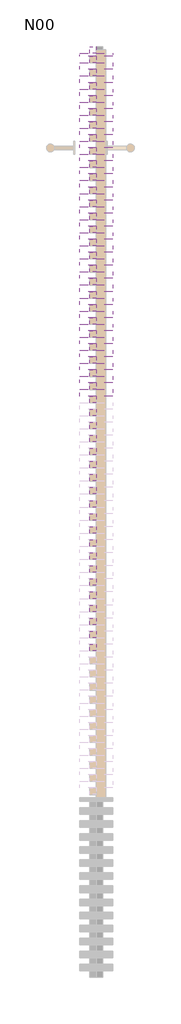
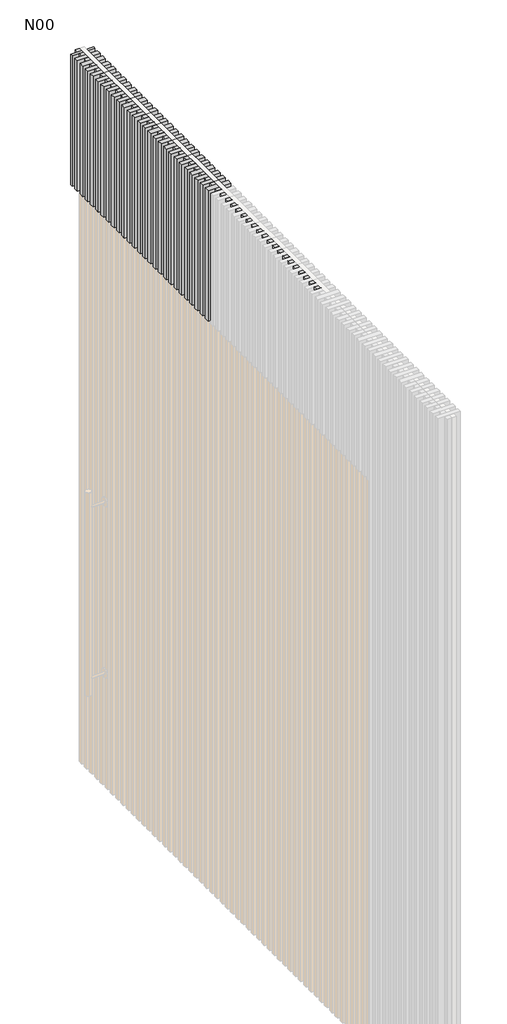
# One storey, part 2 of 2: 47 members, 27 plates.
"""IFC4 building model written with IfcOpenShell, lengths in millimetres."""

from ifc_helpers import new_model, si_unit, origin, place, context, project, spatial, transform, mapped, element, save
from components import montante_retangular_da59f7c3, montante_retangular_5394629c, painel_do_sistema_vazio_vazio_6ddfdf0a, painel_do_sistema_vazio_vazio_ee066a7c

model = new_model("IFC4")

# Units and contexts
model_context = context("Model", 3, world=origin())
ifc_project = project(units=[si_unit("LENGTHUNIT", "METRE", prefix="MILLI")], contexts=[model_context])

# Site, building, storey
site = spatial("IfcSite", under=ifc_project)
building = spatial("IfcBuilding", under=site)
storey = spatial("IfcBuildingStorey", under=building, Name="N00", Elevation=0.0)

# Members
placement = place(None, origin())
montante_retangular_shape = montante_retangular_da59f7c3(model_context)
element("IfcMember", 1, ObjectType="Montante retangular : ARQ_RIPAS", at=placement, inside=storey, context=model_context, shape_type="MappedRepresentation", body=[
    mapped(montante_retangular_shape, transform((11828.4106986, 1030.8169007, 2700.0), x_axis=(0.0, 1.0, 0.0), y_axis=(1.0, 0.0, 0.0), z_axis=(0.0, 0.0, -1.0))),
])
element("IfcMember", 2, ObjectType="Montante retangular : ARQ_RIPAS", at=placement, inside=storey, context=model_context, shape_type="MappedRepresentation", body=[
    mapped(montante_retangular_shape, transform((11828.4106986, 1070.8169007, 2700.0), x_axis=(0.0, 1.0, 0.0), y_axis=(1.0, 0.0, 0.0), z_axis=(0.0, 0.0, -1.0))),
])
element("IfcMember", 3, ObjectType="Montante retangular : ARQ_RIPAS", at=placement, inside=storey, context=model_context, shape_type="MappedRepresentation", body=[
    mapped(montante_retangular_shape, transform((11828.4106986, 1110.8169007, 2700.0), x_axis=(0.0, 1.0, 0.0), y_axis=(1.0, 0.0, 0.0), z_axis=(0.0, 0.0, -1.0))),
])
element("IfcMember", 4, ObjectType="Montante retangular : ARQ_RIPAS", at=placement, inside=storey, context=model_context, shape_type="MappedRepresentation", body=[
    mapped(montante_retangular_shape, transform((11828.4106986, 1150.8169007, 2700.0), x_axis=(0.0, 1.0, 0.0), y_axis=(1.0, 0.0, 0.0), z_axis=(0.0, 0.0, -1.0))),
])
element("IfcMember", 5, ObjectType="Montante retangular : ARQ_RIPAS", at=placement, inside=storey, context=model_context, shape_type="MappedRepresentation", body=[
    mapped(montante_retangular_shape, transform((11828.4106986, 1190.8169007, 2700.0), x_axis=(0.0, 1.0, 0.0), y_axis=(1.0, 0.0, 0.0), z_axis=(0.0, 0.0, -1.0))),
])
element("IfcMember", 6, ObjectType="Montante retangular : ARQ_RIPAS", at=placement, inside=storey, context=model_context, shape_type="MappedRepresentation", body=[
    mapped(montante_retangular_shape, transform((11828.4106986, 1230.8169007, 2700.0), x_axis=(0.0, 1.0, 0.0), y_axis=(1.0, 0.0, 0.0), z_axis=(0.0, 0.0, -1.0))),
])
element("IfcMember", 7, ObjectType="Montante retangular : ARQ_RIPAS", at=placement, inside=storey, context=model_context, shape_type="MappedRepresentation", body=[
    mapped(montante_retangular_shape, transform((11828.4106986, 1270.8169007, 2700.0), x_axis=(0.0, 1.0, 0.0), y_axis=(1.0, 0.0, 0.0), z_axis=(0.0, 0.0, -1.0))),
])
element("IfcMember", 8, ObjectType="Montante retangular : ARQ_RIPAS", at=placement, inside=storey, context=model_context, shape_type="MappedRepresentation", body=[
    mapped(montante_retangular_shape, transform((11828.4106986, 1310.8169007, 2700.0), x_axis=(0.0, 1.0, 0.0), y_axis=(1.0, 0.0, 0.0), z_axis=(0.0, 0.0, -1.0))),
])
element("IfcMember", 9, ObjectType="Montante retangular : ARQ_RIPAS", at=placement, inside=storey, context=model_context, shape_type="MappedRepresentation", body=[
    mapped(montante_retangular_shape, transform((11828.4106986, 1350.8169007, 2700.0), x_axis=(0.0, 1.0, 0.0), y_axis=(1.0, 0.0, 0.0), z_axis=(0.0, 0.0, -1.0))),
])
element("IfcMember", 10, ObjectType="Montante retangular : ARQ_RIPAS", at=placement, inside=storey, context=model_context, shape_type="MappedRepresentation", body=[
    mapped(montante_retangular_shape, transform((11828.4106986, 1390.8169007, 2700.0), x_axis=(0.0, 1.0, 0.0), y_axis=(1.0, 0.0, 0.0), z_axis=(0.0, 0.0, -1.0))),
])
element("IfcMember", 11, ObjectType="Montante retangular : ARQ_RIPAS", at=placement, inside=storey, context=model_context, shape_type="MappedRepresentation", body=[
    mapped(montante_retangular_shape, transform((11828.4106986, 1430.8169007, 2700.0), x_axis=(0.0, 1.0, 0.0), y_axis=(1.0, 0.0, 0.0), z_axis=(0.0, 0.0, -1.0))),
])
element("IfcMember", 12, ObjectType="Montante retangular : ARQ_RIPAS", at=placement, inside=storey, context=model_context, shape_type="MappedRepresentation", body=[
    mapped(montante_retangular_shape, transform((11828.4106986, 1470.8169007, 2700.0), x_axis=(0.0, 1.0, 0.0), y_axis=(1.0, 0.0, 0.0), z_axis=(0.0, 0.0, -1.0))),
])
element("IfcMember", 13, ObjectType="Montante retangular : ARQ_RIPAS", at=placement, inside=storey, context=model_context, shape_type="MappedRepresentation", body=[
    mapped(montante_retangular_shape, transform((11828.4106986, 1510.8169007, 2700.0), x_axis=(0.0, 1.0, 0.0), y_axis=(1.0, 0.0, 0.0), z_axis=(0.0, 0.0, -1.0))),
])
element("IfcMember", 14, ObjectType="Montante retangular : ARQ_RIPAS", at=placement, inside=storey, context=model_context, shape_type="MappedRepresentation", body=[
    mapped(montante_retangular_shape, transform((11828.4106986, 1550.8169007, 2700.0), x_axis=(0.0, 1.0, 0.0), y_axis=(1.0, 0.0, 0.0), z_axis=(0.0, 0.0, -1.0))),
])
element("IfcMember", 15, ObjectType="Montante retangular : ARQ_RIPAS", at=placement, inside=storey, context=model_context, shape_type="MappedRepresentation", body=[
    mapped(montante_retangular_shape, transform((11828.4106986, 1590.8169007, 2700.0), x_axis=(0.0, 1.0, 0.0), y_axis=(1.0, 0.0, 0.0), z_axis=(0.0, 0.0, -1.0))),
])
element("IfcMember", 16, ObjectType="Montante retangular : ARQ_RIPAS", at=placement, inside=storey, context=model_context, shape_type="MappedRepresentation", body=[
    mapped(montante_retangular_shape, transform((11828.4106986, 1630.8169007, 2700.0), x_axis=(0.0, 1.0, 0.0), y_axis=(1.0, 0.0, 0.0), z_axis=(0.0, 0.0, -1.0))),
])
element("IfcMember", 17, ObjectType="Montante retangular : ARQ_RIPAS", at=placement, inside=storey, context=model_context, shape_type="MappedRepresentation", body=[
    mapped(montante_retangular_shape, transform((11828.4106986, 1670.8169007, 2700.0), x_axis=(0.0, 1.0, 0.0), y_axis=(1.0, 0.0, 0.0), z_axis=(0.0, 0.0, -1.0))),
])
element("IfcMember", 18, ObjectType="Montante retangular : ARQ_RIPAS", at=placement, inside=storey, context=model_context, shape_type="MappedRepresentation", body=[
    mapped(montante_retangular_shape, transform((11828.4106986, 1710.8169007, 2700.0), x_axis=(0.0, 1.0, 0.0), y_axis=(1.0, 0.0, 0.0), z_axis=(0.0, 0.0, -1.0))),
])
element("IfcMember", 19, ObjectType="Montante retangular : ARQ_RIPAS", at=placement, inside=storey, context=model_context, shape_type="MappedRepresentation", body=[
    mapped(montante_retangular_shape, transform((11828.4106986, 1750.8169007, 2700.0), x_axis=(0.0, 1.0, 0.0), y_axis=(1.0, 0.0, 0.0), z_axis=(0.0, 0.0, -1.0))),
])
element("IfcMember", 20, ObjectType="Montante retangular : ARQ_RIPAS", at=placement, inside=storey, context=model_context, shape_type="MappedRepresentation", body=[
    mapped(montante_retangular_shape, transform((11828.4106986, 1790.8169007, 2700.0), x_axis=(0.0, 1.0, 0.0), y_axis=(1.0, 0.0, 0.0), z_axis=(0.0, 0.0, -1.0))),
])
element("IfcMember", 21, ObjectType="Montante retangular : ARQ_RIPAS", at=placement, inside=storey, context=model_context, shape_type="MappedRepresentation", body=[
    mapped(montante_retangular_shape, transform((11828.4106986, 1830.8169007, 2700.0), x_axis=(0.0, 1.0, 0.0), y_axis=(1.0, 0.0, 0.0), z_axis=(0.0, 0.0, -1.0))),
])
element("IfcMember", 22, ObjectType="Montante retangular : ARQ_RIPAS", at=placement, inside=storey, context=model_context, shape_type="MappedRepresentation", body=[
    mapped(montante_retangular_shape, transform((11828.4106986, 1870.8169007, 2700.0), x_axis=(0.0, 1.0, 0.0), y_axis=(1.0, 0.0, 0.0), z_axis=(0.0, 0.0, -1.0))),
])
element("IfcMember", 23, ObjectType="Montante retangular : ARQ_RIPAS", at=placement, inside=storey, context=model_context, shape_type="MappedRepresentation", body=[
    mapped(montante_retangular_shape, transform((11828.4106986, 1910.8169007, 2700.0), x_axis=(0.0, 1.0, 0.0), y_axis=(1.0, 0.0, 0.0), z_axis=(0.0, 0.0, -1.0))),
])
element("IfcMember", 24, ObjectType="Montante retangular : ARQ_RIPAS", at=placement, inside=storey, context=model_context, shape_type="MappedRepresentation", body=[
    mapped(montante_retangular_shape, transform((11828.4106986, 1950.8169007, 2700.0), x_axis=(0.0, 1.0, 0.0), y_axis=(1.0, 0.0, 0.0), z_axis=(0.0, 0.0, -1.0))),
])
element("IfcMember", 25, ObjectType="Montante retangular : ARQ_RIPAS", at=placement, inside=storey, context=model_context, shape_type="MappedRepresentation", body=[
    mapped(montante_retangular_shape, transform((11828.4106986, 1990.8169007, 2700.0), x_axis=(0.0, 1.0, 0.0), y_axis=(1.0, 0.0, 0.0), z_axis=(0.0, 0.0, -1.0))),
])
element("IfcMember", 26, ObjectType="Montante retangular : ARQ_RIPAS", at=placement, inside=storey, context=model_context, shape_type="MappedRepresentation", body=[
    mapped(montante_retangular_shape, transform((11828.4106986, 2030.8169007, 2700.0), x_axis=(0.0, 1.0, 0.0), y_axis=(1.0, 0.0, 0.0), z_axis=(0.0, 0.0, -1.0))),
])
element("IfcMember", 27, ObjectType="Montante retangular : ARQ_RIPAS", at=placement, inside=storey, context=model_context, shape_type="MappedRepresentation", body=[
    mapped(montante_retangular_shape, transform((11828.4106986, 2070.8169007, 2700.0), x_axis=(0.0, 1.0, 0.0), y_axis=(1.0, 0.0, 0.0), z_axis=(0.0, 0.0, -1.0))),
])
element("IfcMember", 28, ObjectType="Montante retangular : ARQ_RIPAS", at=placement, inside=storey, context=model_context, shape_type="MappedRepresentation", body=[
    mapped(montante_retangular_shape, transform((11828.4106986, 2110.8169007, 2700.0), x_axis=(0.0, 1.0, 0.0), y_axis=(1.0, 0.0, 0.0), z_axis=(0.0, 0.0, -1.0))),
])
element("IfcMember", 29, ObjectType="Montante retangular : ARQ_RIPAS", at=placement, inside=storey, context=model_context, shape_type="MappedRepresentation", body=[
    mapped(montante_retangular_shape, transform((11828.4106986, 2150.8169007, 2700.0), x_axis=(0.0, 1.0, 0.0), y_axis=(1.0, 0.0, 0.0), z_axis=(0.0, 0.0, -1.0))),
])
element("IfcMember", 30, ObjectType="Montante retangular : ARQ_RIPAS", at=placement, inside=storey, context=model_context, shape_type="MappedRepresentation", body=[
    mapped(montante_retangular_shape, transform((11828.4106986, 2190.8169007, 2700.0), x_axis=(0.0, 1.0, 0.0), y_axis=(1.0, 0.0, 0.0), z_axis=(0.0, 0.0, -1.0))),
])
element("IfcMember", 31, ObjectType="Montante retangular : ARQ_RIPAS", at=placement, inside=storey, context=model_context, shape_type="MappedRepresentation", body=[
    mapped(montante_retangular_shape, transform((11828.4106986, 2230.8169007, 2700.0), x_axis=(0.0, 1.0, 0.0), y_axis=(1.0, 0.0, 0.0), z_axis=(0.0, 0.0, -1.0))),
])
element("IfcMember", 32, ObjectType="Montante retangular : ARQ_RIPAS", at=placement, inside=storey, context=model_context, shape_type="MappedRepresentation", body=[
    mapped(montante_retangular_shape, transform((11828.4106986, 2270.8169007, 2700.0), x_axis=(0.0, 1.0, 0.0), y_axis=(1.0, 0.0, 0.0), z_axis=(0.0, 0.0, -1.0))),
])
element("IfcMember", 33, ObjectType="Montante retangular : ARQ_RIPAS", at=placement, inside=storey, context=model_context, shape_type="MappedRepresentation", body=[
    mapped(montante_retangular_shape, transform((11828.4106986, 2310.8169007, 2700.0), x_axis=(0.0, 1.0, 0.0), y_axis=(1.0, 0.0, 0.0), z_axis=(0.0, 0.0, -1.0))),
])
element("IfcMember", 34, ObjectType="Montante retangular : ARQ_RIPAS", at=placement, inside=storey, context=model_context, shape_type="MappedRepresentation", body=[
    mapped(montante_retangular_shape, transform((11828.4106986, 2350.8169007, 2700.0), x_axis=(0.0, 1.0, 0.0), y_axis=(1.0, 0.0, 0.0), z_axis=(0.0, 0.0, -1.0))),
])
element("IfcMember", 35, ObjectType="Montante retangular : ARQ_RIPAS", at=placement, inside=storey, context=model_context, shape_type="MappedRepresentation", body=[
    mapped(montante_retangular_shape, transform((11828.4106986, 2390.8169007, 2700.0), x_axis=(0.0, 1.0, 0.0), y_axis=(1.0, 0.0, 0.0), z_axis=(0.0, 0.0, -1.0))),
])
element("IfcMember", 36, ObjectType="Montante retangular : ARQ_RIPAS", at=placement, inside=storey, context=model_context, shape_type="MappedRepresentation", body=[
    mapped(montante_retangular_shape, transform((11828.4106986, 2430.8169007, 2700.0), x_axis=(0.0, 1.0, 0.0), y_axis=(1.0, 0.0, 0.0), z_axis=(0.0, 0.0, -1.0))),
])
element("IfcMember", 37, ObjectType="Montante retangular : ARQ_RIPAS", at=placement, inside=storey, context=model_context, shape_type="MappedRepresentation", body=[
    mapped(montante_retangular_shape, transform((11828.4106986, 2470.8169007, 2700.0), x_axis=(0.0, 1.0, 0.0), y_axis=(1.0, 0.0, 0.0), z_axis=(0.0, 0.0, -1.0))),
])
element("IfcMember", 38, ObjectType="Montante retangular : ARQ_RIPAS", at=placement, inside=storey, context=model_context, shape_type="MappedRepresentation", body=[
    mapped(montante_retangular_shape, transform((11828.4106986, 2510.8169007, 2700.0), x_axis=(0.0, 1.0, 0.0), y_axis=(1.0, 0.0, 0.0), z_axis=(0.0, 0.0, -1.0))),
])
element("IfcMember", 39, ObjectType="Montante retangular : ARQ_RIPAS", at=placement, inside=storey, context=model_context, shape_type="MappedRepresentation", body=[
    mapped(montante_retangular_shape, transform((11828.4106986, 2550.8169007, 2700.0), x_axis=(0.0, 1.0, 0.0), y_axis=(1.0, 0.0, 0.0), z_axis=(0.0, 0.0, -1.0))),
])
element("IfcMember", 40, ObjectType="Montante retangular : ARQ_RIPAS", at=placement, inside=storey, context=model_context, shape_type="MappedRepresentation", body=[
    mapped(montante_retangular_shape, transform((11828.4106986, 2590.8169007, 2700.0), x_axis=(0.0, 1.0, 0.0), y_axis=(1.0, 0.0, 0.0), z_axis=(0.0, 0.0, -1.0))),
])
element("IfcMember", 41, ObjectType="Montante retangular : ARQ_RIPAS", at=placement, inside=storey, context=model_context, shape_type="MappedRepresentation", body=[
    mapped(montante_retangular_shape, transform((11828.4106986, 2630.8169007, 2700.0), x_axis=(0.0, 1.0, 0.0), y_axis=(1.0, 0.0, 0.0), z_axis=(0.0, 0.0, -1.0))),
])
element("IfcMember", 42, ObjectType="Montante retangular : ARQ_RIPAS", at=placement, inside=storey, context=model_context, shape_type="MappedRepresentation", body=[
    mapped(montante_retangular_shape, transform((11828.4106986, 2670.8169007, 2700.0), x_axis=(0.0, 1.0, 0.0), y_axis=(1.0, 0.0, 0.0), z_axis=(0.0, 0.0, -1.0))),
])
element("IfcMember", 43, ObjectType="Montante retangular : ARQ_RIPAS", at=placement, inside=storey, context=model_context, shape_type="MappedRepresentation", body=[
    mapped(montante_retangular_shape, transform((11828.4106986, 2710.8169007, 2700.0), x_axis=(0.0, 1.0, 0.0), y_axis=(1.0, 0.0, 0.0), z_axis=(0.0, 0.0, -1.0))),
])
element("IfcMember", 44, ObjectType="Montante retangular : ARQ_RIPAS", at=placement, inside=storey, context=model_context, shape_type="MappedRepresentation", body=[
    mapped(montante_retangular_shape, transform((11828.4106986, 2750.8169007, 2700.0), x_axis=(0.0, 1.0, 0.0), y_axis=(1.0, 0.0, 0.0), z_axis=(0.0, 0.0, -1.0))),
])
element("IfcMember", 45, ObjectType="Montante retangular : ARQ_RIPAS", at=placement, inside=storey, context=model_context, shape_type="MappedRepresentation", body=[
    mapped(montante_retangular_shape, transform((11828.4106986, 2790.8169007, 2700.0), x_axis=(0.0, 1.0, 0.0), y_axis=(1.0, 0.0, 0.0), z_axis=(0.0, 0.0, -1.0))),
])
element("IfcMember", 46, ObjectType="Montante retangular : ARQ_RIPAS", at=placement, inside=storey, context=model_context, shape_type="MappedRepresentation", body=[
    mapped(montante_retangular_shape, transform((11828.4106986, 2830.8169007, 2700.0), x_axis=(0.0, 1.0, 0.0), y_axis=(1.0, 0.0, 0.0), z_axis=(0.0, 0.0, -1.0))),
])
montante_retangular_2_shape = montante_retangular_5394629c(model_context)
element("IfcMember", 47, ObjectType="Montante retangular : ARQ_RIPAS", at=placement, inside=storey, context=model_context, shape_type="MappedRepresentation", body=[
    mapped(montante_retangular_2_shape, transform((11828.4106986, 2870.8169004, 2700.0), x_axis=(0.0, 1.0, 0.0), y_axis=(1.0, 0.0, 0.0), z_axis=(0.0, 0.0, -1.0))),
])

# Plates
painel_do_sistema_vazio_vazio_shape = painel_do_sistema_vazio_vazio_6ddfdf0a(model_context)
element("IfcPlate", 48, ObjectType="Painel do sistema vazio : Vazio", at=placement, inside=storey, context=model_context, shape_type="MappedRepresentation", body=[
    mapped(painel_do_sistema_vazio_vazio_shape, transform((11828.4106986, 1810.8169007, 2700.0), x_axis=(0.0, 1.0, 0.0), y_axis=(-1.0, 0.0, 0.0), z_axis=(0.0, 0.0, 1.0))),
])
element("IfcPlate", 49, ObjectType="Painel do sistema vazio : Vazio", at=placement, inside=storey, context=model_context, shape_type="MappedRepresentation", body=[
    mapped(painel_do_sistema_vazio_vazio_shape, transform((11828.4106986, 1850.8169007, 2700.0), x_axis=(0.0, 1.0, 0.0), y_axis=(-1.0, 0.0, 0.0), z_axis=(0.0, 0.0, 1.0))),
])
element("IfcPlate", 50, ObjectType="Painel do sistema vazio : Vazio", at=placement, inside=storey, context=model_context, shape_type="MappedRepresentation", body=[
    mapped(painel_do_sistema_vazio_vazio_shape, transform((11828.4106986, 1890.8169007, 2700.0), x_axis=(0.0, 1.0, 0.0), y_axis=(-1.0, 0.0, 0.0), z_axis=(0.0, 0.0, 1.0))),
])
element("IfcPlate", 51, ObjectType="Painel do sistema vazio : Vazio", at=placement, inside=storey, context=model_context, shape_type="MappedRepresentation", body=[
    mapped(painel_do_sistema_vazio_vazio_shape, transform((11828.4106986, 1930.8169007, 2700.0), x_axis=(0.0, 1.0, 0.0), y_axis=(-1.0, 0.0, 0.0), z_axis=(0.0, 0.0, 1.0))),
])
element("IfcPlate", 52, ObjectType="Painel do sistema vazio : Vazio", at=placement, inside=storey, context=model_context, shape_type="MappedRepresentation", body=[
    mapped(painel_do_sistema_vazio_vazio_shape, transform((11828.4106986, 1970.8169007, 2700.0), x_axis=(0.0, 1.0, 0.0), y_axis=(-1.0, 0.0, 0.0), z_axis=(0.0, 0.0, 1.0))),
])
element("IfcPlate", 53, ObjectType="Painel do sistema vazio : Vazio", at=placement, inside=storey, context=model_context, shape_type="MappedRepresentation", body=[
    mapped(painel_do_sistema_vazio_vazio_shape, transform((11828.4106986, 2010.8169007, 2700.0), x_axis=(0.0, 1.0, 0.0), y_axis=(-1.0, 0.0, 0.0), z_axis=(0.0, 0.0, 1.0))),
])
element("IfcPlate", 54, ObjectType="Painel do sistema vazio : Vazio", at=placement, inside=storey, context=model_context, shape_type="MappedRepresentation", body=[
    mapped(painel_do_sistema_vazio_vazio_shape, transform((11828.4106986, 2050.8169007, 2700.0), x_axis=(0.0, 1.0, 0.0), y_axis=(-1.0, 0.0, 0.0), z_axis=(0.0, 0.0, 1.0))),
])
element("IfcPlate", 55, ObjectType="Painel do sistema vazio : Vazio", at=placement, inside=storey, context=model_context, shape_type="MappedRepresentation", body=[
    mapped(painel_do_sistema_vazio_vazio_shape, transform((11828.4106986, 2090.8169007, 2700.0), x_axis=(0.0, 1.0, 0.0), y_axis=(-1.0, 0.0, 0.0), z_axis=(0.0, 0.0, 1.0))),
])
element("IfcPlate", 56, ObjectType="Painel do sistema vazio : Vazio", at=placement, inside=storey, context=model_context, shape_type="MappedRepresentation", body=[
    mapped(painel_do_sistema_vazio_vazio_shape, transform((11828.4106986, 2130.8169007, 2700.0), x_axis=(0.0, 1.0, 0.0), y_axis=(-1.0, 0.0, 0.0), z_axis=(0.0, 0.0, 1.0))),
])
element("IfcPlate", 57, ObjectType="Painel do sistema vazio : Vazio", at=placement, inside=storey, context=model_context, shape_type="MappedRepresentation", body=[
    mapped(painel_do_sistema_vazio_vazio_shape, transform((11828.4106986, 2170.8169007, 2700.0), x_axis=(0.0, 1.0, 0.0), y_axis=(-1.0, 0.0, 0.0), z_axis=(0.0, 0.0, 1.0))),
])
element("IfcPlate", 58, ObjectType="Painel do sistema vazio : Vazio", at=placement, inside=storey, context=model_context, shape_type="MappedRepresentation", body=[
    mapped(painel_do_sistema_vazio_vazio_shape, transform((11828.4106986, 2210.8169007, 2700.0), x_axis=(0.0, 1.0, 0.0), y_axis=(-1.0, 0.0, 0.0), z_axis=(0.0, 0.0, 1.0))),
])
element("IfcPlate", 59, ObjectType="Painel do sistema vazio : Vazio", at=placement, inside=storey, context=model_context, shape_type="MappedRepresentation", body=[
    mapped(painel_do_sistema_vazio_vazio_shape, transform((11828.4106986, 2250.8169007, 2700.0), x_axis=(0.0, 1.0, 0.0), y_axis=(-1.0, 0.0, 0.0), z_axis=(0.0, 0.0, 1.0))),
])
element("IfcPlate", 60, ObjectType="Painel do sistema vazio : Vazio", at=placement, inside=storey, context=model_context, shape_type="MappedRepresentation", body=[
    mapped(painel_do_sistema_vazio_vazio_shape, transform((11828.4106986, 2290.8169007, 2700.0), x_axis=(0.0, 1.0, 0.0), y_axis=(-1.0, 0.0, 0.0), z_axis=(0.0, 0.0, 1.0))),
])
element("IfcPlate", 61, ObjectType="Painel do sistema vazio : Vazio", at=placement, inside=storey, context=model_context, shape_type="MappedRepresentation", body=[
    mapped(painel_do_sistema_vazio_vazio_shape, transform((11828.4106986, 2330.8169007, 2700.0), x_axis=(0.0, 1.0, 0.0), y_axis=(-1.0, 0.0, 0.0), z_axis=(0.0, 0.0, 1.0))),
])
element("IfcPlate", 62, ObjectType="Painel do sistema vazio : Vazio", at=placement, inside=storey, context=model_context, shape_type="MappedRepresentation", body=[
    mapped(painel_do_sistema_vazio_vazio_shape, transform((11828.4106986, 2370.8169007, 2700.0), x_axis=(0.0, 1.0, 0.0), y_axis=(-1.0, 0.0, 0.0), z_axis=(0.0, 0.0, 1.0))),
])
element("IfcPlate", 63, ObjectType="Painel do sistema vazio : Vazio", at=placement, inside=storey, context=model_context, shape_type="MappedRepresentation", body=[
    mapped(painel_do_sistema_vazio_vazio_shape, transform((11828.4106986, 2410.8169007, 2700.0), x_axis=(0.0, 1.0, 0.0), y_axis=(-1.0, 0.0, 0.0), z_axis=(0.0, 0.0, 1.0))),
])
element("IfcPlate", 64, ObjectType="Painel do sistema vazio : Vazio", at=placement, inside=storey, context=model_context, shape_type="MappedRepresentation", body=[
    mapped(painel_do_sistema_vazio_vazio_shape, transform((11828.4106986, 2450.8169007, 2700.0), x_axis=(0.0, 1.0, 0.0), y_axis=(-1.0, 0.0, 0.0), z_axis=(0.0, 0.0, 1.0))),
])
element("IfcPlate", 65, ObjectType="Painel do sistema vazio : Vazio", at=placement, inside=storey, context=model_context, shape_type="MappedRepresentation", body=[
    mapped(painel_do_sistema_vazio_vazio_shape, transform((11828.4106986, 2490.8169007, 2700.0), x_axis=(0.0, 1.0, 0.0), y_axis=(-1.0, 0.0, 0.0), z_axis=(0.0, 0.0, 1.0))),
])
element("IfcPlate", 66, ObjectType="Painel do sistema vazio : Vazio", at=placement, inside=storey, context=model_context, shape_type="MappedRepresentation", body=[
    mapped(painel_do_sistema_vazio_vazio_shape, transform((11828.4106986, 2530.8169007, 2700.0), x_axis=(0.0, 1.0, 0.0), y_axis=(-1.0, 0.0, 0.0), z_axis=(0.0, 0.0, 1.0))),
])
element("IfcPlate", 67, ObjectType="Painel do sistema vazio : Vazio", at=placement, inside=storey, context=model_context, shape_type="MappedRepresentation", body=[
    mapped(painel_do_sistema_vazio_vazio_shape, transform((11828.4106986, 2570.8169007, 2700.0), x_axis=(0.0, 1.0, 0.0), y_axis=(-1.0, 0.0, 0.0), z_axis=(0.0, 0.0, 1.0))),
])
element("IfcPlate", 68, ObjectType="Painel do sistema vazio : Vazio", at=placement, inside=storey, context=model_context, shape_type="MappedRepresentation", body=[
    mapped(painel_do_sistema_vazio_vazio_shape, transform((11828.4106986, 2610.8169007, 2700.0), x_axis=(0.0, 1.0, 0.0), y_axis=(-1.0, 0.0, 0.0), z_axis=(0.0, 0.0, 1.0))),
])
element("IfcPlate", 69, ObjectType="Painel do sistema vazio : Vazio", at=placement, inside=storey, context=model_context, shape_type="MappedRepresentation", body=[
    mapped(painel_do_sistema_vazio_vazio_shape, transform((11828.4106986, 2650.8169007, 2700.0), x_axis=(0.0, 1.0, 0.0), y_axis=(-1.0, 0.0, 0.0), z_axis=(0.0, 0.0, 1.0))),
])
element("IfcPlate", 70, ObjectType="Painel do sistema vazio : Vazio", at=placement, inside=storey, context=model_context, shape_type="MappedRepresentation", body=[
    mapped(painel_do_sistema_vazio_vazio_shape, transform((11828.4106986, 2690.8169007, 2700.0), x_axis=(0.0, 1.0, 0.0), y_axis=(-1.0, 0.0, 0.0), z_axis=(0.0, 0.0, 1.0))),
])
element("IfcPlate", 71, ObjectType="Painel do sistema vazio : Vazio", at=placement, inside=storey, context=model_context, shape_type="MappedRepresentation", body=[
    mapped(painel_do_sistema_vazio_vazio_shape, transform((11828.4106986, 2730.8169007, 2700.0), x_axis=(0.0, 1.0, 0.0), y_axis=(-1.0, 0.0, 0.0), z_axis=(0.0, 0.0, 1.0))),
])
element("IfcPlate", 72, ObjectType="Painel do sistema vazio : Vazio", at=placement, inside=storey, context=model_context, shape_type="MappedRepresentation", body=[
    mapped(painel_do_sistema_vazio_vazio_shape, transform((11828.4106986, 2770.8169007, 2700.0), x_axis=(0.0, 1.0, 0.0), y_axis=(-1.0, 0.0, 0.0), z_axis=(0.0, 0.0, 1.0))),
])
element("IfcPlate", 73, ObjectType="Painel do sistema vazio : Vazio", at=placement, inside=storey, context=model_context, shape_type="MappedRepresentation", body=[
    mapped(painel_do_sistema_vazio_vazio_shape, transform((11828.4106986, 2810.8169007, 2700.0), x_axis=(0.0, 1.0, 0.0), y_axis=(-1.0, 0.0, 0.0), z_axis=(0.0, 0.0, 1.0))),
])
painel_do_sistema_vazio_vazio_2_shape = painel_do_sistema_vazio_vazio_ee066a7c(model_context)
element("IfcPlate", 74, ObjectType="Painel do sistema vazio : Vazio", at=placement, inside=storey, context=model_context, shape_type="MappedRepresentation", body=[
    mapped(painel_do_sistema_vazio_vazio_2_shape, transform((11828.4106986, 2845.8169005, 2700.0), x_axis=(0.0, 1.0, 0.0), y_axis=(-1.0, 0.0, 0.0), z_axis=(0.0, 0.0, 1.0))),
])

save(model, "model.ifc")
